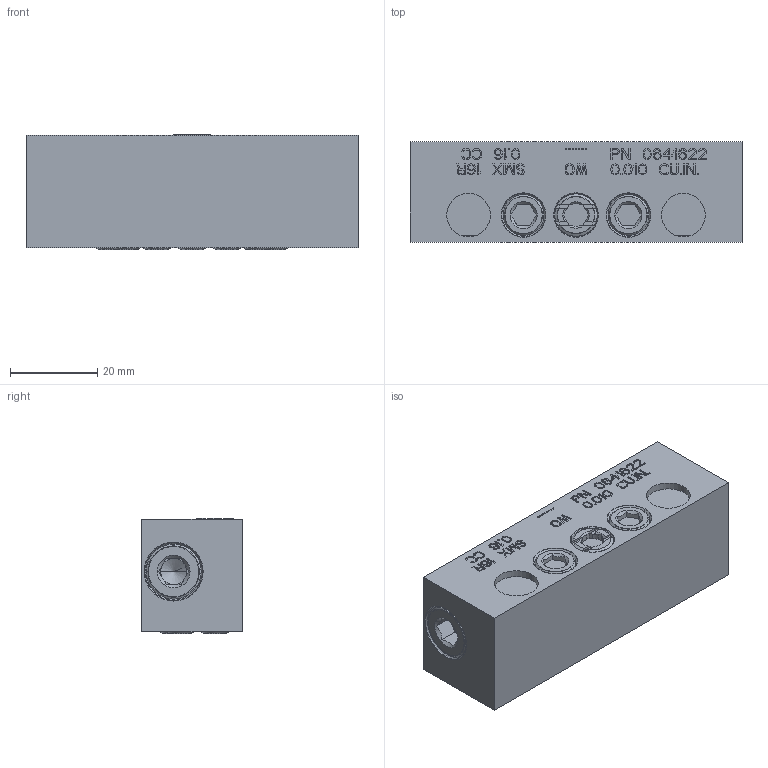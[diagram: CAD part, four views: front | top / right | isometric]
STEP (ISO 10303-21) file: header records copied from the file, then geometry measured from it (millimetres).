
FILE_DESCRIPTION((''),'2;1');
FILE_NAME('0641622_SMX_16R','2023-07-21T12:29:21',('pietro.masciave'),(''),'CREO PARAMETRIC BY PTC INC, 2022281','CREO PARAMETRIC BY PTC INC, 2022281','');
FILE_SCHEMA(('CONFIG_CONTROL_DESIGN'));
Length unit declared in the file: millimetre
Products named in the file (1): 0641622_SMX_16R
Bounding box: 76 x 23 x 26.33 mm (x, y, z)
Volume: 44005.1 mm3; surface area: 12667.1 mm2
Topology: 1 solids, 14 shells, 1305 faces, 3599 edges, 2391 vertices
Faces by surface type: plane 1129, cylinder 110, cone 44, torus 22
Entity records: 42143 total; most frequent: CARTESIAN_POINT 8619, ORIENTED_EDGE 7150, DIRECTION 6488, EDGE_CURVE 3595, VECTOR 3160, LINE 3160, VERTEX_POINT 2391, AXIS2_PLACEMENT_3D 1664
